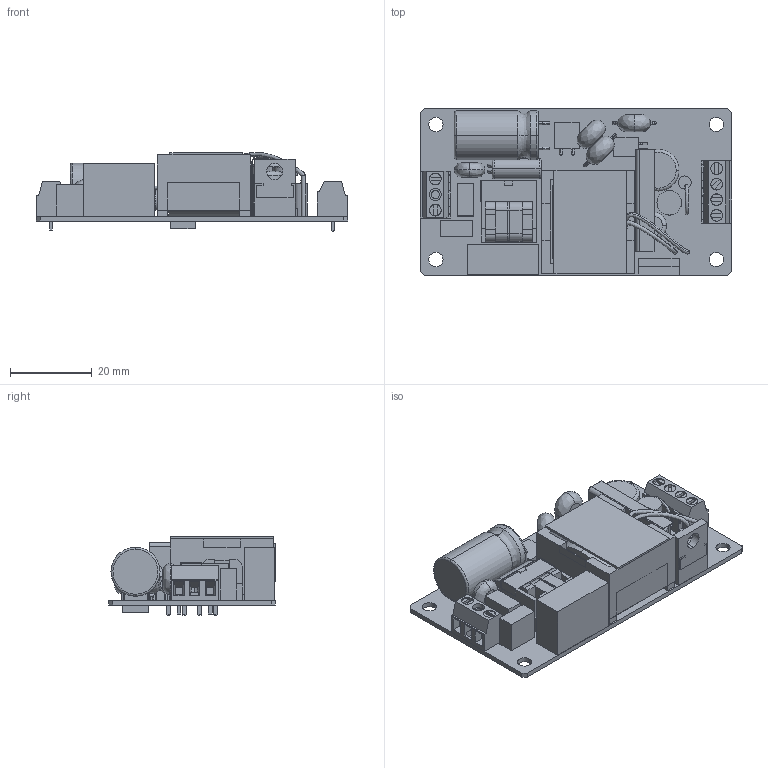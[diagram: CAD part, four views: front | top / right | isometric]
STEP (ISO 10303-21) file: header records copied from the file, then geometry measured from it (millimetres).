
FILE_DESCRIPTION (( 'STEP AP203' ), '1' );
FILE_NAME ('CFM21M-S.STEP', '2019-11-11T09:02:51', ( '' ), ( '' ), 'SwSTEP 2.0', 'SolidWorks 2017', '' );
FILE_SCHEMA (( 'CONFIG_CONTROL_DESIGN' ));
Length unit declared in the file: millimetre
Products named in the file (7): 3孔-端子臺(進聯)981221; 4孔-端子臺(進聯)981221; CFM21-S-T; CFM21M-S
Assembly tree (3 placements, depth 2):
  4孔-端子臺(進聯)981221
  CFM21-S-T
  CFM21M-S
    CFM21-S-T
    4孔-端子臺(進聯)981221
    3孔-端子臺(進聯)981221
  3孔-端子臺(進聯)981221
Bounding box: 76.15 x 40.64 x 19.29 mm (x, y, z)
Volume: 35214.3 mm3; surface area: 33064.3 mm2
Topology: 5 solids, 5 shells, 1005 faces, 2638 edges, 1681 vertices
Faces by surface type: plane 658, cylinder 202, bspline 145
Entity records: 52107 total; most frequent: CARTESIAN_POINT 27341, ORIENTED_EDGE 5272, DIRECTION 4627, EDGE_CURVE 2636, LINE 1797, VECTOR 1797, VERTEX_POINT 1681, AXIS2_PLACEMENT_3D 1415
